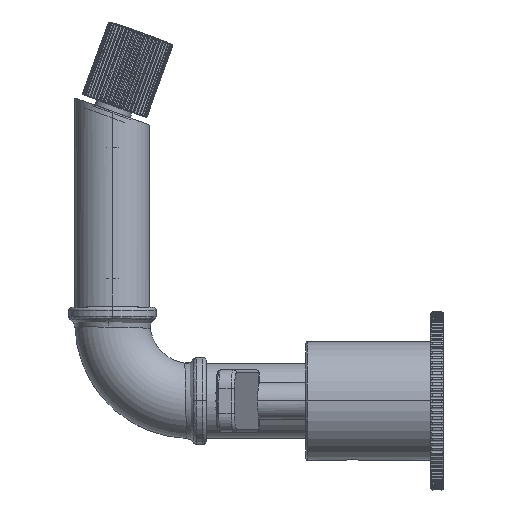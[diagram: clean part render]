
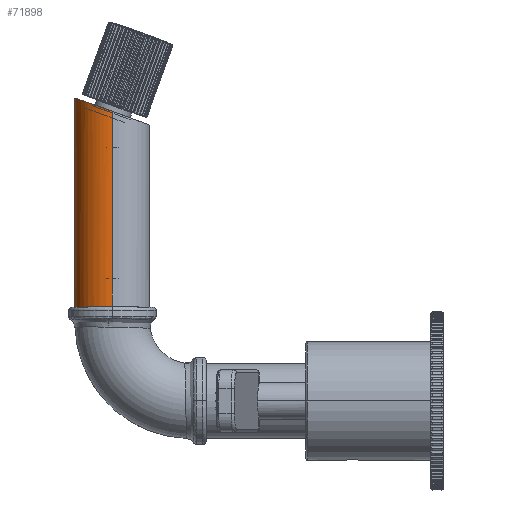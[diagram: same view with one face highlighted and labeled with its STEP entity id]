
A CAD part, left-side view. The second image highlights one B-rep face of the part: STEP entity #71898.
In plain terms, the highlighted cylindrical face has radius 12 mm (diameter 24 mm), a partial arc.
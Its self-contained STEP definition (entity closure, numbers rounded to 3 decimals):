
#2341 = ORIENTED_EDGE ( 'NONE', *, *, #111803, .T. ) ;
#3415 = CARTESIAN_POINT ( 'NONE',  ( 12.418, 190., 101.251 ) ) ;
#5610 =( BOUNDED_CURVE ( )  B_SPLINE_CURVE ( 3, ( #157429, #3415, #188812, #189901 ),
 .UNSPECIFIED., .F., .F. ) 
 B_SPLINE_CURVE_WITH_KNOTS ( ( 4, 4 ),
 ( 4.712, 7.854 ),
 .UNSPECIFIED. ) 
 CURVE ( )  GEOMETRIC_REPRESENTATION_ITEM ( )  RATIONAL_B_SPLINE_CURVE ( ( 1., 0.333, 0.333, 1. ) ) 
 REPRESENTATION_ITEM ( '' )  );
#8320 = DIRECTION ( 'NONE',  ( 0.009, 0., 1. ) ) ;
#10478 = AXIS2_PLACEMENT_3D ( 'NONE', #11572, #42993, #111616 ) ;
#11572 = CARTESIAN_POINT ( 'NONE',  ( -0.257, 166., 28.999 ) ) ;
#11700 = CARTESIAN_POINT ( 'NONE',  ( 12.337, 166., 92.516 ) ) ;
#13921 = VECTOR ( 'NONE', #173432, 1000. ) ;
#18110 = AXIS2_PLACEMENT_3D ( 'NONE', #129501, #27174, #205544 ) ;
#27174 = DIRECTION ( 'NONE',  ( 0.009, 0., 1. ) ) ;
#28668 = EDGE_LOOP ( 'NONE', ( #186846, #2341, #87063, #33080 ) ) ;
#29269 = VECTOR ( 'NONE', #8320, 1000. ) ;
#33080 = ORIENTED_EDGE ( 'NONE', *, *, #114314, .F. ) ;
#33600 = CARTESIAN_POINT ( 'NONE',  ( -11.662, 166., 92.74 ) ) ;
#35731 = VERTEX_POINT ( 'NONE', #162477 ) ;
#39126 = CIRCLE ( 'NONE', #10478, 12. ) ;
#42993 = DIRECTION ( 'NONE',  ( -0.009, 0., -1. ) ) ;
#44214 = LINE ( 'NONE', #145386, #29269 ) ;
#60877 = CYLINDRICAL_SURFACE ( 'NONE', #18110, 12. ) ;
#71898 = ADVANCED_FACE ( 'NONE', ( #217991 ), #60877, .T. ) ;
#87063 = ORIENTED_EDGE ( 'NONE', *, *, #162814, .F. ) ;
#104835 = CARTESIAN_POINT ( 'NONE',  ( -12.256, 166., 29.111 ) ) ;
#111616 = DIRECTION ( 'NONE',  ( -1., 0., 0.009 ) ) ;
#111803 = EDGE_CURVE ( 'NONE', #196255, #206174, #221670, .T. ) ;
#114314 = EDGE_CURVE ( 'NONE', #35731, #132275, #44214, .T. ) ;
#129501 = CARTESIAN_POINT ( 'NONE',  ( -0.257, 166., 28.999 ) ) ;
#132275 = VERTEX_POINT ( 'NONE', #11700 ) ;
#137402 = EDGE_CURVE ( 'NONE', #196255, #35731, #39126, .T. ) ;
#137584 = CARTESIAN_POINT ( 'NONE',  ( -12.256, 166., 29.111 ) ) ;
#145386 = CARTESIAN_POINT ( 'NONE',  ( 11.743, 166., 28.887 ) ) ;
#157429 = CARTESIAN_POINT ( 'NONE',  ( 12.337, 166., 92.516 ) ) ;
#162477 = CARTESIAN_POINT ( 'NONE',  ( 11.743, 166., 28.887 ) ) ;
#162814 = EDGE_CURVE ( 'NONE', #132275, #206174, #5610, .T. ) ;
#173432 = DIRECTION ( 'NONE',  ( 0.009, 0., 1. ) ) ;
#186846 = ORIENTED_EDGE ( 'NONE', *, *, #137402, .F. ) ;
#188812 = CARTESIAN_POINT ( 'NONE',  ( -11.581, 190., 101.475 ) ) ;
#189901 = CARTESIAN_POINT ( 'NONE',  ( -11.662, 166., 92.74 ) ) ;
#196255 = VERTEX_POINT ( 'NONE', #104835 ) ;
#205544 = DIRECTION ( 'NONE',  ( 1., 0., -0.009 ) ) ;
#206174 = VERTEX_POINT ( 'NONE', #33600 ) ;
#217991 = FACE_OUTER_BOUND ( 'NONE', #28668, .T. ) ;
#221670 = LINE ( 'NONE', #137584, #13921 ) ;
